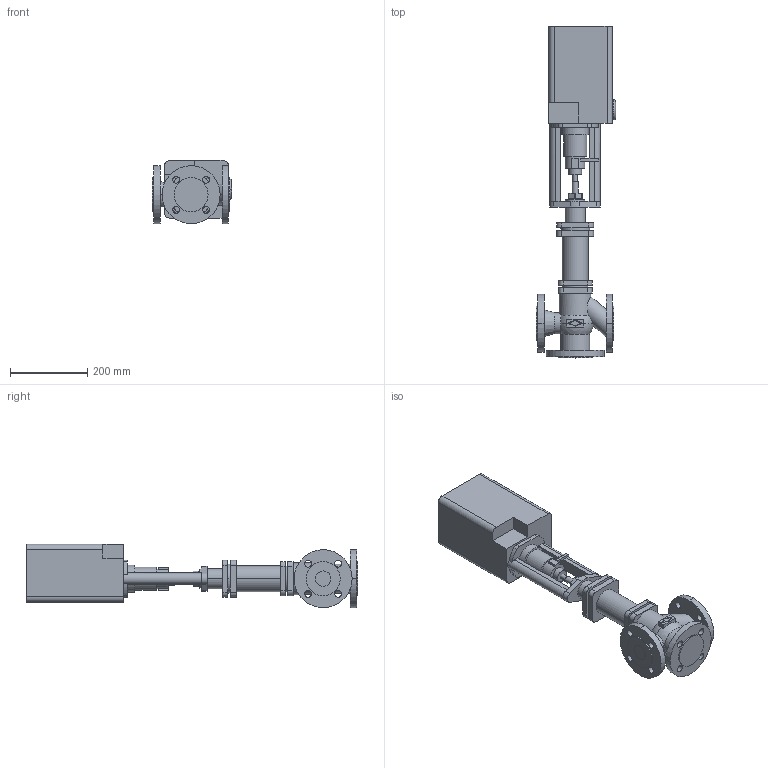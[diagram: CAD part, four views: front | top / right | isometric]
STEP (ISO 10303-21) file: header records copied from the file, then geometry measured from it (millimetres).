
FILE_DESCRIPTION(('OneSpaceDesigner STEP Export'),'2;1');
FILE_NAME('c000002445.stp','2006-09-21T11:47:25',(''),(''),'OneSpace Designer STEP processor for AP214 (Solid Model)','OneSpace Designer 13.20A 18-Aug-2005 (C) CoCreate Software GmbH','');
FILE_SCHEMA(('AUTOMOTIVE_DESIGN { 1 0 10303 214 1 1 1 1 }'));
Length unit declared in the file: millimetre
Products named in the file (2): 1; 2
Bounding box: 204.6 x 858.5 x 164 mm (x, y, z)
Volume: 9770191.2 mm3; surface area: 556660.6 mm2
Topology: 2 solids, 2 shells, 236 faces, 598 edges, 396 vertices
Faces by surface type: cylinder 114, plane 114, sphere 4, cone 2, torus 2
Entity records: 6870 total; most frequent: CARTESIAN_POINT 1352, ORIENTED_EDGE 1196, DIRECTION 1067, EDGE_CURVE 598, VERTEX_POINT 396, AXIS2_PLACEMENT_3D 372, VECTOR 323, LINE 323
